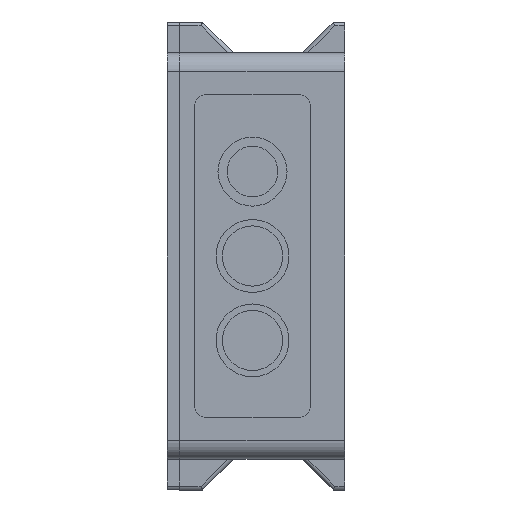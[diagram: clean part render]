
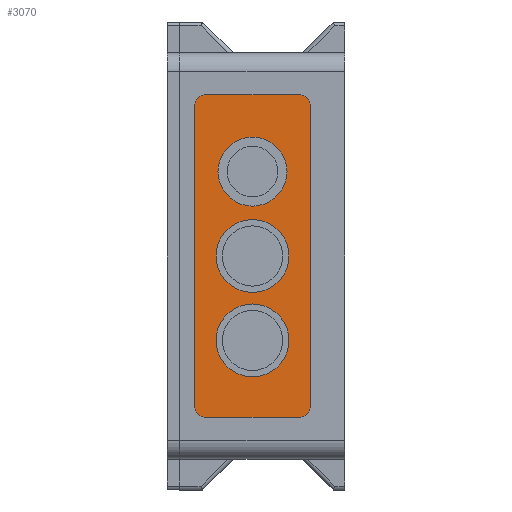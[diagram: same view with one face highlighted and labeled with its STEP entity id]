
A CAD part, left-side view. The second image highlights one B-rep face of the part: STEP entity #3070.
In plain terms, the highlighted planar face has unit normal (-1, 0, 0).
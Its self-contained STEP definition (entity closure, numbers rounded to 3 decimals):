
#142=FACE_BOUND('',#381,.T.);
#143=FACE_BOUND('',#382,.T.);
#144=FACE_BOUND('',#383,.T.);
#199=FACE_OUTER_BOUND('',#380,.T.);
#380=EDGE_LOOP('',(#2242,#2243,#2244,#2245,#2246,#2247,#2248,#2249));
#381=EDGE_LOOP('',(#2250));
#382=EDGE_LOOP('',(#2251));
#383=EDGE_LOOP('',(#2252));
#610=LINE('',#4702,#936);
#611=LINE('',#4706,#937);
#612=LINE('',#4710,#938);
#613=LINE('',#4713,#939);
#936=VECTOR('',#3766,10.);
#937=VECTOR('',#3769,10.);
#938=VECTOR('',#3772,10.);
#939=VECTOR('',#3775,10.);
#1218=CIRCLE('',#3306,2.5);
#1219=CIRCLE('',#3307,2.5);
#1220=CIRCLE('',#3308,2.5);
#1221=CIRCLE('',#3309,2.5);
#1222=CIRCLE('',#3310,9.);
#1223=CIRCLE('',#3311,9.5);
#1224=CIRCLE('',#3312,9.5);
#1352=VERTEX_POINT('',#4698);
#1353=VERTEX_POINT('',#4699);
#1354=VERTEX_POINT('',#4701);
#1355=VERTEX_POINT('',#4703);
#1356=VERTEX_POINT('',#4705);
#1357=VERTEX_POINT('',#4707);
#1358=VERTEX_POINT('',#4709);
#1359=VERTEX_POINT('',#4711);
#1360=VERTEX_POINT('',#4714);
#1361=VERTEX_POINT('',#4716);
#1362=VERTEX_POINT('',#4718);
#1682=EDGE_CURVE('',#1352,#1353,#1218,.T.);
#1683=EDGE_CURVE('',#1353,#1354,#610,.T.);
#1684=EDGE_CURVE('',#1354,#1355,#1219,.T.);
#1685=EDGE_CURVE('',#1355,#1356,#611,.T.);
#1686=EDGE_CURVE('',#1356,#1357,#1220,.T.);
#1687=EDGE_CURVE('',#1357,#1358,#612,.T.);
#1688=EDGE_CURVE('',#1358,#1359,#1221,.T.);
#1689=EDGE_CURVE('',#1359,#1352,#613,.T.);
#1690=EDGE_CURVE('',#1360,#1360,#1222,.T.);
#1691=EDGE_CURVE('',#1361,#1361,#1223,.T.);
#1692=EDGE_CURVE('',#1362,#1362,#1224,.T.);
#2242=ORIENTED_EDGE('',*,*,#1682,.T.);
#2243=ORIENTED_EDGE('',*,*,#1683,.T.);
#2244=ORIENTED_EDGE('',*,*,#1684,.T.);
#2245=ORIENTED_EDGE('',*,*,#1685,.T.);
#2246=ORIENTED_EDGE('',*,*,#1686,.T.);
#2247=ORIENTED_EDGE('',*,*,#1687,.T.);
#2248=ORIENTED_EDGE('',*,*,#1688,.T.);
#2249=ORIENTED_EDGE('',*,*,#1689,.T.);
#2250=ORIENTED_EDGE('',*,*,#1690,.T.);
#2251=ORIENTED_EDGE('',*,*,#1691,.T.);
#2252=ORIENTED_EDGE('',*,*,#1692,.T.);
#2952=PLANE('',#3305);
#3070=ADVANCED_FACE('',(#199,#142,#143,#144),#2952,.T.);
#3305=AXIS2_PLACEMENT_3D('',#4697,#3762,#3763);
#3306=AXIS2_PLACEMENT_3D('',#4700,#3764,#3765);
#3307=AXIS2_PLACEMENT_3D('',#4704,#3767,#3768);
#3308=AXIS2_PLACEMENT_3D('',#4708,#3770,#3771);
#3309=AXIS2_PLACEMENT_3D('',#4712,#3773,#3774);
#3310=AXIS2_PLACEMENT_3D('',#4715,#3776,#3777);
#3311=AXIS2_PLACEMENT_3D('',#4717,#3778,#3779);
#3312=AXIS2_PLACEMENT_3D('',#4719,#3780,#3781);
#3762=DIRECTION('center_axis',(-1.,0.,0.));
#3763=DIRECTION('ref_axis',(0.,0.,1.));
#3764=DIRECTION('center_axis',(-1.,0.,0.));
#3765=DIRECTION('ref_axis',(0.,0.707,-0.707));
#3766=DIRECTION('',(0.,-1.,0.));
#3767=DIRECTION('center_axis',(-1.,0.,0.));
#3768=DIRECTION('ref_axis',(0.,-0.707,-0.707));
#3769=DIRECTION('',(0.,0.,1.));
#3770=DIRECTION('center_axis',(-1.,0.,0.));
#3771=DIRECTION('ref_axis',(0.,-0.707,0.707));
#3772=DIRECTION('',(0.,1.,0.));
#3773=DIRECTION('center_axis',(-1.,0.,0.));
#3774=DIRECTION('ref_axis',(0.,0.707,0.707));
#3775=DIRECTION('',(0.,0.,-1.));
#3776=DIRECTION('center_axis',(1.,0.,0.));
#3777=DIRECTION('ref_axis',(0.,0.,1.));
#3778=DIRECTION('center_axis',(1.,0.,0.));
#3779=DIRECTION('ref_axis',(0.,0.,1.));
#3780=DIRECTION('center_axis',(1.,0.,0.));
#3781=DIRECTION('ref_axis',(0.,0.,1.));
#4697=CARTESIAN_POINT('Origin',(-63.175,12.,-39.));
#4698=CARTESIAN_POINT('',(-63.175,39.,-39.5));
#4699=CARTESIAN_POINT('',(-63.175,36.5,-42.));
#4700=CARTESIAN_POINT('Origin',(-63.175,36.5,-39.5));
#4701=CARTESIAN_POINT('',(-63.175,11.5,-42.));
#4702=CARTESIAN_POINT('',(-63.175,39.,-42.));
#4703=CARTESIAN_POINT('',(-63.175,9.,-39.5));
#4704=CARTESIAN_POINT('Origin',(-63.175,11.5,-39.5));
#4705=CARTESIAN_POINT('',(-63.175,9.,39.5));
#4706=CARTESIAN_POINT('',(-63.175,9.,-30.));
#4707=CARTESIAN_POINT('',(-63.175,11.5,42.));
#4708=CARTESIAN_POINT('Origin',(-63.175,11.5,39.5));
#4709=CARTESIAN_POINT('',(-63.175,36.5,42.));
#4710=CARTESIAN_POINT('',(-63.175,9.,42.));
#4711=CARTESIAN_POINT('',(-63.175,39.,39.5));
#4712=CARTESIAN_POINT('Origin',(-63.175,36.5,39.5));
#4713=CARTESIAN_POINT('',(-63.175,39.,30.));
#4714=CARTESIAN_POINT('',(-63.175,24.,13.));
#4715=CARTESIAN_POINT('Origin',(-63.175,24.,22.));
#4716=CARTESIAN_POINT('',(-63.175,24.,-9.5));
#4717=CARTESIAN_POINT('Origin',(-63.175,24.,0.));
#4718=CARTESIAN_POINT('',(-63.175,24.,-31.5));
#4719=CARTESIAN_POINT('Origin',(-63.175,24.,-22.));
